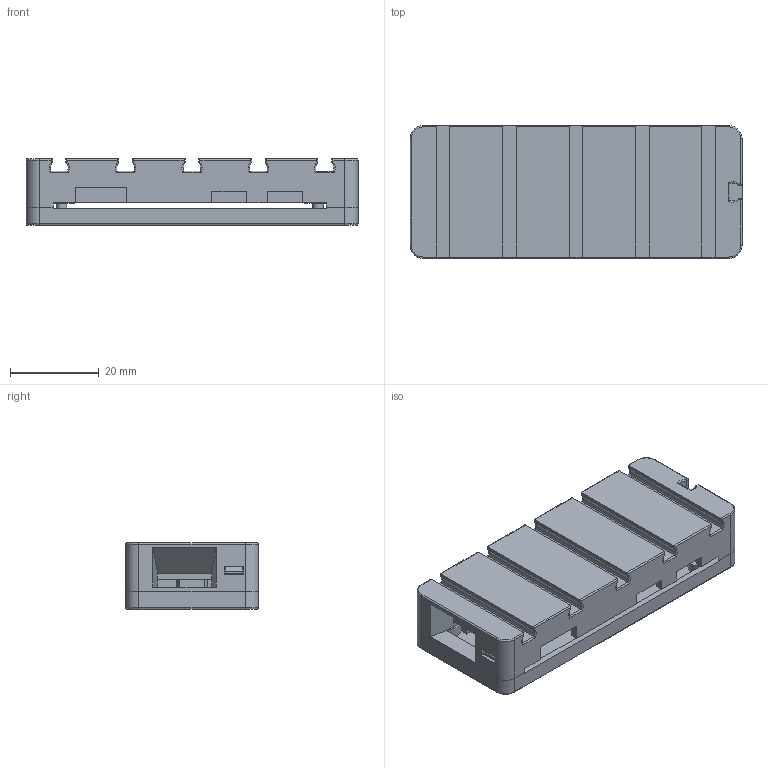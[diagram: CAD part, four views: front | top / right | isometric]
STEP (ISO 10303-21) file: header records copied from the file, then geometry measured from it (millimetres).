
FILE_DESCRIPTION(/* description */ (''),/* implementation_level */ '2;1');
FILE_NAME(/* name */ 'ft_housing-RaspberryPiZero-with-top.stp',/* time_stamp */ '2024-03-19T13:06:25+01:00',/* author */ (''),/* organization */ (''),/* preprocessor_version */ 'ST-DEVELOPER v19.4',/* originating_system */ 'SIEMENS PLM Software NX2306.8101',/* authorisation */ '');
FILE_SCHEMA (('AUTOMOTIVE_DESIGN { 1 0 10303 214 3 1 1 1 }'));
Length unit declared in the file: millimetre
Products named in the file (1): ft_housing-RaspberryPiZero-with-top
Bounding box: 75 x 30 x 15 mm (x, y, z)
Volume: 13907.3 mm3; surface area: 14552.8 mm2
Topology: 2 solids, 2 shells, 301 faces, 792 edges, 502 vertices
Faces by surface type: plane 151, cylinder 110, torus 36, cone 4
Full cylindrical faces by diameter (mm): 2.7 x4, 6 x4
Entity records: 9750 total; most frequent: CARTESIAN_POINT 2322, DIRECTION 1545, ORIENTED_EDGE 1536, EDGE_CURVE 768, AXIS2_PLACEMENT_3D 519, LINE 507, VECTOR 507, VERTEX_POINT 490
